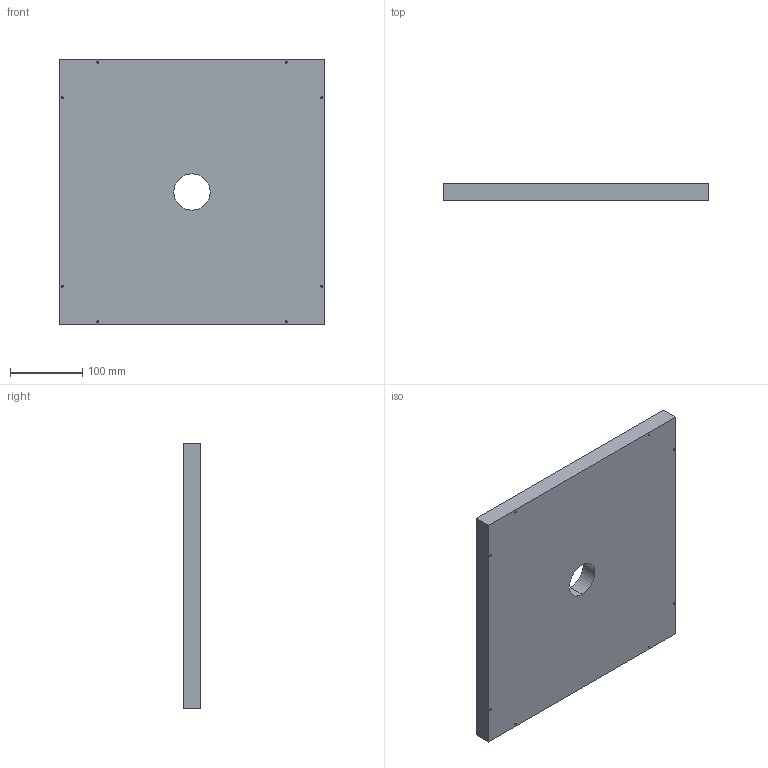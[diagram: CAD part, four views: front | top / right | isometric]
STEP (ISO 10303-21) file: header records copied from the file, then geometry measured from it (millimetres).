
FILE_DESCRIPTION (( 'STEP AP203' ), '1' );
FILE_NAME ('CST-KHFS350350Y50-¼òÒ×3DÍ¼.STEP', '2020-04-29T07:45:42', ( '' ), ( '' ), 'SwSTEP 2.0', 'SolidWorks 2014', '' );
FILE_SCHEMA (( 'CONFIG_CONTROL_DESIGN' ));
Length unit declared in the file: millimetre
Products named in the file (1): CST-KHFS350350Y50-潠眢3D芞
Bounding box: 366 x 24 x 366 mm (x, y, z)
Volume: 3047018.5 mm3; surface area: 304548.8 mm2
Topology: 1 solids, 1 shells, 45 faces, 110 edges, 60 vertices
Faces by surface type: cylinder 18, cone 16, plane 11
Entity records: 1281 total; most frequent: DIRECTION 222, CARTESIAN_POINT 200, ORIENTED_EDGE 188, EDGE_CURVE 94, AXIS2_PLACEMENT_3D 82, VERTEX_POINT 60, LINE 58, VECTOR 58
